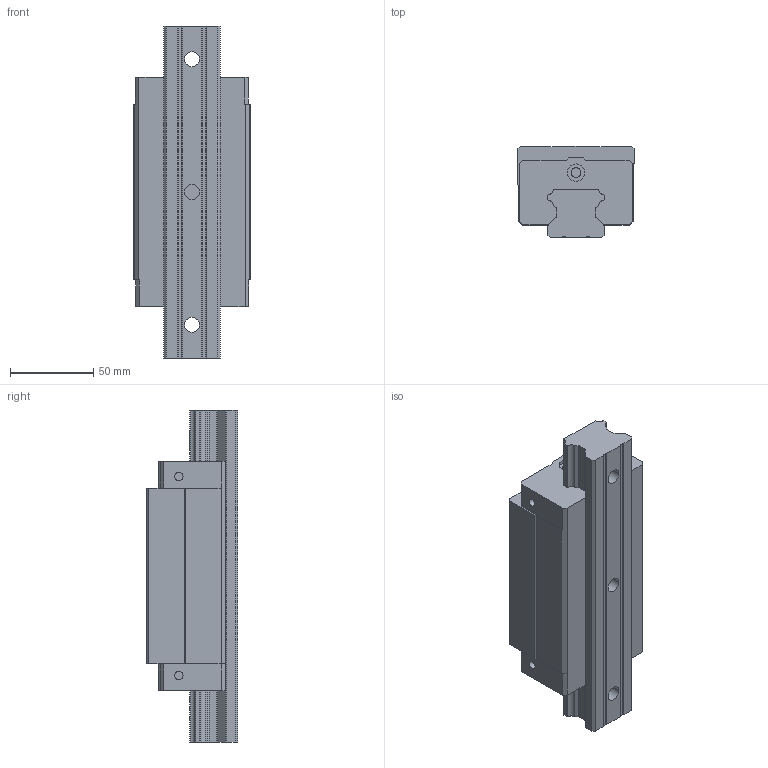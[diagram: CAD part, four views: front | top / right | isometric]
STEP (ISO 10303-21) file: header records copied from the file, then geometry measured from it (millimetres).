
FILE_DESCRIPTION((''),'2;1');
FILE_NAME('HGH35HA_ASM','2008-07-11T',('immo'),(''),'PRO/ENGINEER BY PARAMETRIC TECHNOLOGY CORPORATION, 2004360','PRO/ENGINEER BY PARAMETRIC TECHNOLOGY CORPORATION, 2004360','');
FILE_SCHEMA(('CONFIG_CONTROL_DESIGN'));
Length unit declared in the file: millimetre
Products named in the file (4): HGH35_1; HGR35_1; HGH35_ASM_2_ASM; HGH35HA_ASM
Assembly tree (3 placements, depth 3):
  HGH35HA_ASM
    HGH35_ASM_2_ASM
      HGH35_1
      HGR35_1
Bounding box: 70 x 55 x 200 mm (x, y, z)
Volume: 507052.7 mm3; surface area: 76006 mm2
Topology: 2 solids, 2 shells, 171 faces, 460 edges, 312 vertices
Faces by surface type: plane 109, cylinder 62
Entity records: 5524 total; most frequent: CARTESIAN_POINT 952, DIRECTION 944, ORIENTED_EDGE 920, EDGE_CURVE 460, VECTOR 336, LINE 336, VERTEX_POINT 312, AXIS2_PLACEMENT_3D 304
